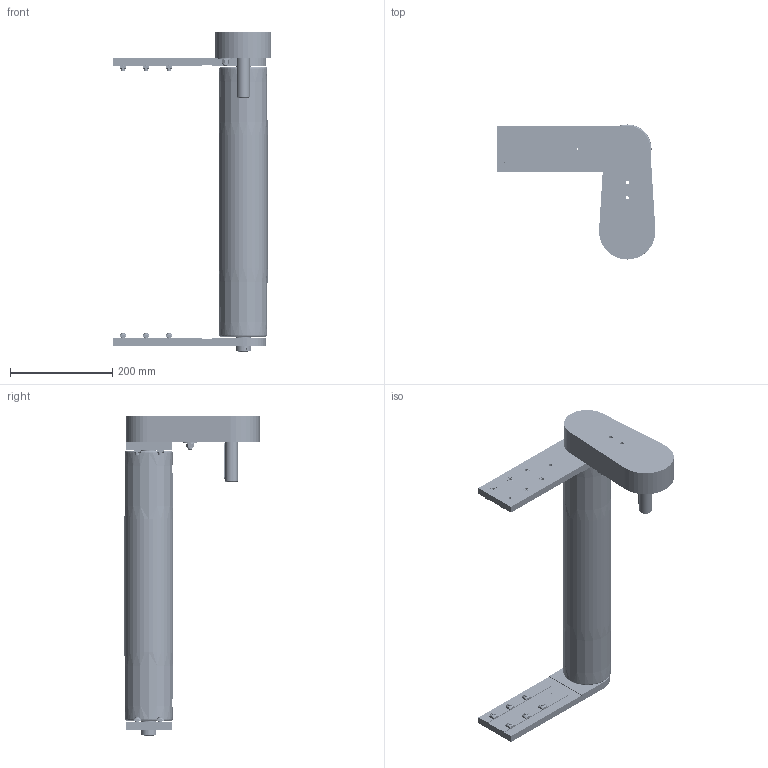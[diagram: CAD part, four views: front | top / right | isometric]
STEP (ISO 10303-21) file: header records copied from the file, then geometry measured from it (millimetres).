
FILE_DESCRIPTION (( 'STEP AP203' ), '1' );
FILE_NAME ('084.095.KTC.49.500.step', '2013-02-28T12:00:04', ( '' ), ( '' ), 'SwSTEP 2.0', 'SolidWorks 2011', '' );
FILE_SCHEMA (( 'CONFIG_CONTROL_DESIGN' ));
Products named in the file (24): 084.810.007; CHIAVETTE_A 8x7x70 UNI 6604-69; 084.803.012; 084.803.014; 084.809.002; 084.808.002_084.808.002; 084.808.003_084.808.003; 084.802.019_084.802.019; 084.802.034_084.802.034; 084.810.003; 084.813.002; 084.812.003; 084.816.108_084.816.108; 084.095.KTC.49.500; 084.813.005; 084.302.000 DADI ALUSIC 13x13_084.302.004; 084.301.000 VITI ALUSIC_084.301.003; 084.809.003; 084.810.005; Torque nut 01_ALUSIC_ISO 7040-M8-S; Plain Washer XLarge Grade C_ALUSIC_Washer ISO 7094 - 8; Circlip for Shafts normal_din_Circlip DIN 471 - 8 x 0.8; CUSCINETTI A SFERE_608-2RS; 084.810.004
Assembly tree (48 placements, depth 3):
  084.095.KTC.49.500
    084.302.000 DADI ALUSIC 13x13_084.302.004  x12
    084.808.003_084.808.003
    084.301.000 VITI ALUSIC_084.301.003  x12
    084.813.005
    084.812.003
    CHIAVETTE_A 8x7x70 UNI 6604-69
    084.802.034_084.802.034
    084.809.002
    084.810.003  x2
    084.810.005
      CUSCINETTI A SFERE_608-2RS  x2
      084.810.004
      084.810.007
      Plain Washer XLarge Grade C_ALUSIC_Washer ISO 7094 - 8
      Torque nut 01_ALUSIC_ISO 7040-M8-S
      Circlip for Shafts normal_din_Circlip DIN 471 - 8 x 0.8
    084.803.014  x2
    084.803.012
    084.808.002_084.808.002
    084.802.019_084.802.019
    084.809.003
    084.813.002
    084.816.108_084.816.108
Bounding box: 310 x 264 x 623.5 mm (x, y, z)
Volume: 2188079.1 mm3; surface area: 987486.5 mm2
Topology: 77 solids, 78 shells, 3128 faces, 7346 edges, 4692 vertices
Faces by surface type: cylinder 1493, plane 851, bspline 468, cone 197, torus 110, sphere 9
Entity records: 84145 total; most frequent: CARTESIAN_POINT 18919, DIRECTION 14131, ORIENTED_EDGE 12242, EDGE_CURVE 6121, AXIS2_PLACEMENT_3D 5953, VERTEX_POINT 3897, CIRCLE 3741, EDGE_LOOP 3202
